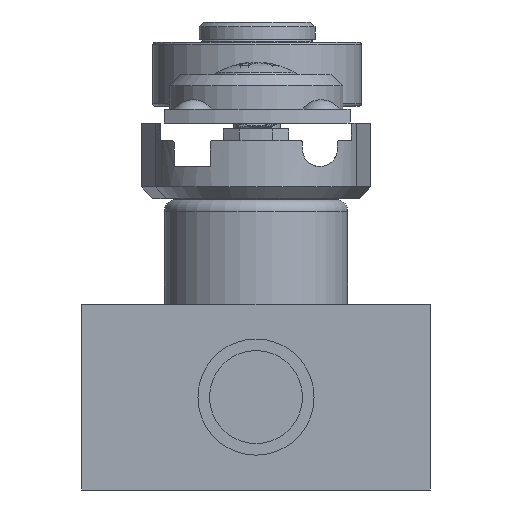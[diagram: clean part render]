
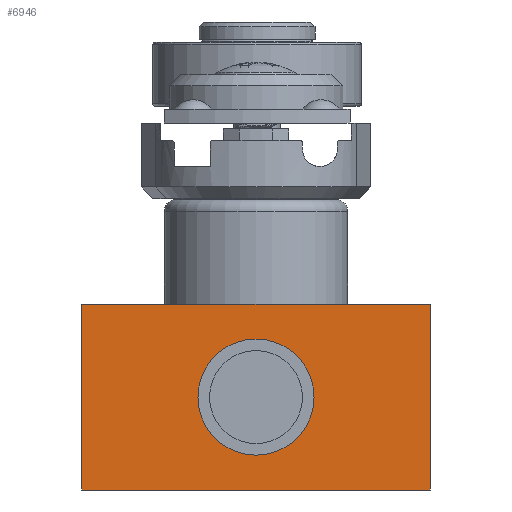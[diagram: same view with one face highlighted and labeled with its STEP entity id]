
A CAD part, front view. The second image highlights one B-rep face of the part: STEP entity #6946.
In plain terms, the highlighted planar face has unit normal (0, -1, 0) as drawn and (0, 0, -1) by its records, which use the part's own axes.
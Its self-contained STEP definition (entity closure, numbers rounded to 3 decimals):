
#259=FACE_BOUND('',#922,.T.);
#315=PLANE('',#7616);
#523=FACE_OUTER_BOUND('',#921,.T.);
#921=EDGE_LOOP('',(#4876,#4877,#4878,#4879));
#922=EDGE_LOOP('',(#4880));
#1297=LINE('',#10579,#1889);
#1336=LINE('',#10695,#1928);
#1352=LINE('',#10740,#1944);
#1368=LINE('',#10773,#1960);
#1889=VECTOR('',#8399,1.);
#1928=VECTOR('',#8510,30.);
#1944=VECTOR('',#8554,16.);
#1960=VECTOR('',#8592,30.);
#2476=CIRCLE('',#7528,5.);
#2866=VERTEX_POINT('',#10524);
#2885=VERTEX_POINT('',#10577);
#2886=VERTEX_POINT('',#10578);
#2927=VERTEX_POINT('',#10693);
#2942=VERTEX_POINT('',#10738);
#3577=EDGE_CURVE('',#2866,#2866,#2476,.T.);
#3602=EDGE_CURVE('',#2885,#2886,#1297,.T.);
#3658=EDGE_CURVE('',#2886,#2927,#1336,.T.);
#3680=EDGE_CURVE('',#2942,#2927,#1352,.T.);
#3697=EDGE_CURVE('',#2942,#2885,#1368,.T.);
#4876=ORIENTED_EDGE('',*,*,#3602,.T.);
#4877=ORIENTED_EDGE('',*,*,#3658,.T.);
#4878=ORIENTED_EDGE('',*,*,#3680,.F.);
#4879=ORIENTED_EDGE('',*,*,#3697,.T.);
#4880=ORIENTED_EDGE('',*,*,#3577,.T.);
#6946=ADVANCED_FACE('',(#523,#259),#315,.T.);
#7528=AXIS2_PLACEMENT_3D('',#10526,#8339,#8340);
#7616=AXIS2_PLACEMENT_3D('',#10774,#8593,#8594);
#8339=DIRECTION('center_axis',(0.,0.,1.));
#8340=DIRECTION('ref_axis',(1.,0.,0.));
#8399=DIRECTION('',(0.,-1.,0.));
#8510=DIRECTION('',(-1.,0.,0.));
#8554=DIRECTION('',(0.,-1.,0.));
#8592=DIRECTION('',(1.,0.,0.));
#8593=DIRECTION('center_axis',(0.,0.,-1.));
#8594=DIRECTION('ref_axis',(-1.,0.,0.));
#10524=CARTESIAN_POINT('',(-5.,-8.,-40.));
#10526=CARTESIAN_POINT('Origin',(0.,-8.,-40.));
#10577=CARTESIAN_POINT('',(15.,0.,-40.));
#10578=CARTESIAN_POINT('',(15.,-16.,-40.));
#10579=CARTESIAN_POINT('',(15.,0.,-40.));
#10693=CARTESIAN_POINT('',(-15.,-16.,-40.));
#10695=CARTESIAN_POINT('',(15.,-16.,-40.));
#10738=CARTESIAN_POINT('',(-15.,0.,-40.));
#10740=CARTESIAN_POINT('',(-15.,0.,-40.));
#10773=CARTESIAN_POINT('',(-15.,0.,-40.));
#10774=CARTESIAN_POINT('Origin',(15.,-1.,-40.));
